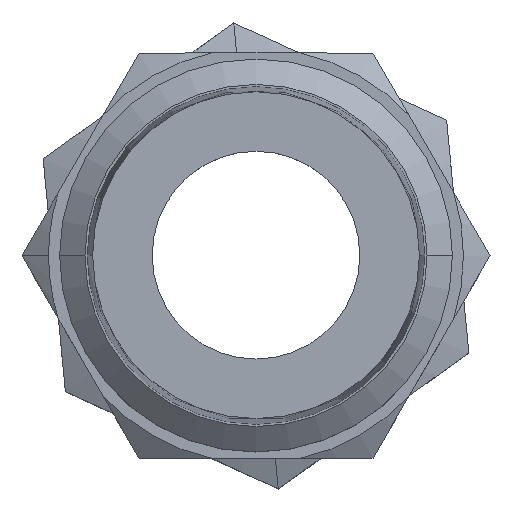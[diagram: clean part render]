
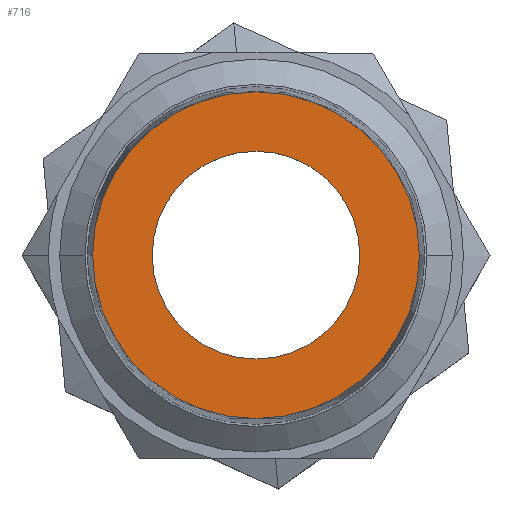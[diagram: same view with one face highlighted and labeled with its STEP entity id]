
A CAD part, top view. The second image highlights one B-rep face of the part: STEP entity #716.
In plain terms, the highlighted planar face has unit normal (0, 0, 1).
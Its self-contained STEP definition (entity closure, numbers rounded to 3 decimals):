
#163 = EDGE_CURVE ( 'NONE', #290, #288, #4587, .T. ) ;
#288 = VERTEX_POINT ( 'NONE', #7098 ) ;
#290 = VERTEX_POINT ( 'NONE', #7100 ) ;
#313 = VERTEX_POINT ( 'NONE', #7123 ) ;
#314 = VERTEX_POINT ( 'NONE', #7124 ) ;
#716 = ADVANCED_FACE ( 'NONE', ( #10076, #10077 ), #10078, .T. ) ;
#748 = CIRCLE ( 'NONE', #753, 10.25 ) ;
#753 = AXIS2_PLACEMENT_3D ( 'NONE', #10681, #10682, #10683 ) ;
#768 = AXIS2_PLACEMENT_3D ( 'NONE', #6768, #6769, #6770 ) ;
#930 = EDGE_CURVE ( 'NONE', #314, #313, #748, .T. ) ;
#1091 = CIRCLE ( 'NONE', #1095, 16.125 ) ;
#1095 = AXIS2_PLACEMENT_3D ( 'NONE', #2142, #2143, #2144 ) ;
#1104 = CIRCLE ( 'NONE', #1108, 10.25 ) ;
#1108 = AXIS2_PLACEMENT_3D ( 'NONE', #2169, #2170, #2171 ) ;
#2142 = CARTESIAN_POINT ( 'NONE',  ( 0., 0., 38. ) ) ;
#2143 = DIRECTION ( 'NONE',  ( 0., 0., 1. ) ) ;
#2144 = DIRECTION ( 'NONE',  ( 1., 0., 0. ) ) ;
#2169 = CARTESIAN_POINT ( 'NONE',  ( 0., 0., 38. ) ) ;
#2170 = DIRECTION ( 'NONE',  ( 0., 0., 1. ) ) ;
#2171 = DIRECTION ( 'NONE',  ( 1., 0., 0. ) ) ;
#4587 = CIRCLE ( 'NONE', #768, 16.125 ) ;
#5504 = AXIS2_PLACEMENT_3D ( 'NONE', #10068, #10080, #10081 ) ;
#6005 = EDGE_CURVE ( 'NONE', #288, #290, #1091, .T. ) ;
#6026 = EDGE_CURVE ( 'NONE', #313, #314, #1104, .T. ) ;
#6768 = CARTESIAN_POINT ( 'NONE',  ( 0., 0., 38. ) ) ;
#6769 = DIRECTION ( 'NONE',  ( 0., 0., 1. ) ) ;
#6770 = DIRECTION ( 'NONE',  ( 1., 0., 0. ) ) ;
#7098 = CARTESIAN_POINT ( 'NONE',  ( -16.125, 0., 38. ) ) ;
#7100 = CARTESIAN_POINT ( 'NONE',  ( 16.125, 0., 38. ) ) ;
#7123 = CARTESIAN_POINT ( 'NONE',  ( -10.25, 0., 38. ) ) ;
#7124 = CARTESIAN_POINT ( 'NONE',  ( 10.25, 0., 38. ) ) ;
#8866 = ORIENTED_EDGE ( 'NONE', *, *, #930, .F. ) ;
#8867 = ORIENTED_EDGE ( 'NONE', *, *, #6026, .F. ) ;
#8868 = ORIENTED_EDGE ( 'NONE', *, *, #163, .T. ) ;
#8869 = ORIENTED_EDGE ( 'NONE', *, *, #6005, .T. ) ;
#10068 = CARTESIAN_POINT ( 'NONE',  ( 34.641, 20., 38. ) ) ;
#10076 = FACE_BOUND ( 'NONE', #12092, .T. ) ;
#10077 = FACE_OUTER_BOUND ( 'NONE', #12094, .T. ) ;
#10078 = PLANE ( 'NONE',  #5504 ) ;
#10080 = DIRECTION ( 'NONE',  ( 0., 0., 1. ) ) ;
#10081 = DIRECTION ( 'NONE',  ( 1., 0., 0. ) ) ;
#10681 = CARTESIAN_POINT ( 'NONE',  ( 0., 0., 38. ) ) ;
#10682 = DIRECTION ( 'NONE',  ( 0., 0., 1. ) ) ;
#10683 = DIRECTION ( 'NONE',  ( 1., 0., 0. ) ) ;
#12092 = EDGE_LOOP ( 'NONE', ( #8866, #8867 ) ) ;
#12094 = EDGE_LOOP ( 'NONE', ( #8868, #8869 ) ) ;
